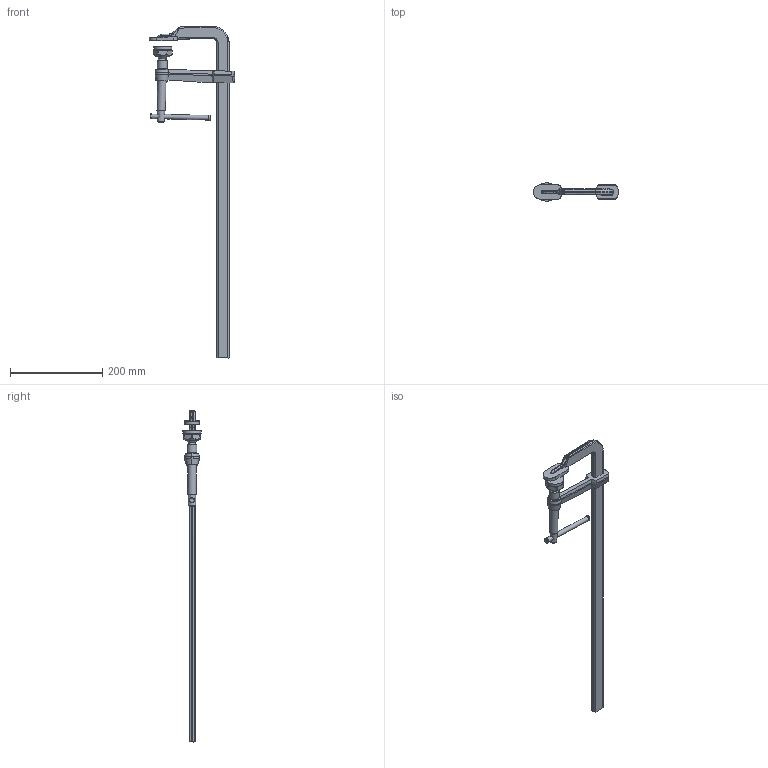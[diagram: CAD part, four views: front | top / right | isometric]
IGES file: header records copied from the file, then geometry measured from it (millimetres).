
Start section: ZWSOFT
Global section: file name: GSL60_SGL-24.igs; native system: ZW3D; preprocessor: 1.0; author: ZW3D; organization: ZWSOFT; date: 180307.155747; units: millimetre
Bounding box: 185.07 x 40 x 720.99 mm (x, y, z)
Surface area: 100029.2 mm2 (no closed solid volume)
Topology: 0 solids, 0 shells, 161 faces, 819 edges, 778 vertices
Faces by surface type: bspline 161
